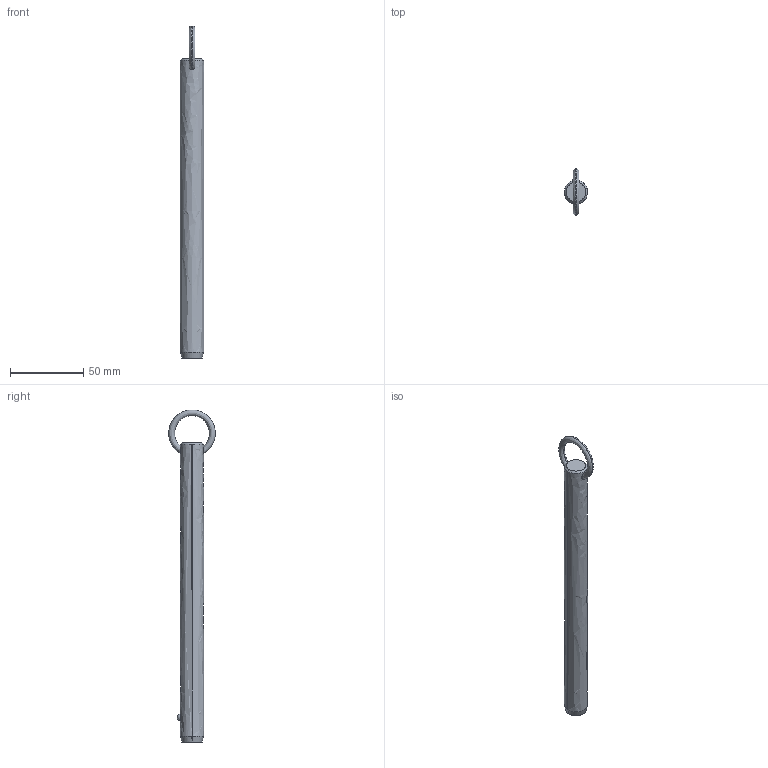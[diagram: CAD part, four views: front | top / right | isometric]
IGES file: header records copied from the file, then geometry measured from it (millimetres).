
Start section: SolidWorks IGES file using analytic representation for surfaces
Global section: file name: C:\Users\liam_\OneDrive\Documents\WORK\Work for WixRoyd\Job Files\J-00019 - Matt Davis CAD Checking\04. CAD Drawings\automotion20190605\P1250.2_v2\P1250.2_v2_20190729_IGES\P1250.062-690.igs; native system: SolidWorks 2017; preprocessor: SolidWorks 2017; author: liam_; date: 190729.234344; units: millimetre
Bounding box: 15.8 x 31.7 x 225.99 mm (x, y, z)
Surface area: 11289.9 mm2 (no closed solid volume)
Topology: 0 solids, 0 shells, 12 faces, 292 edges, 290 vertices
Faces by surface type: revolution 8, bspline 4
